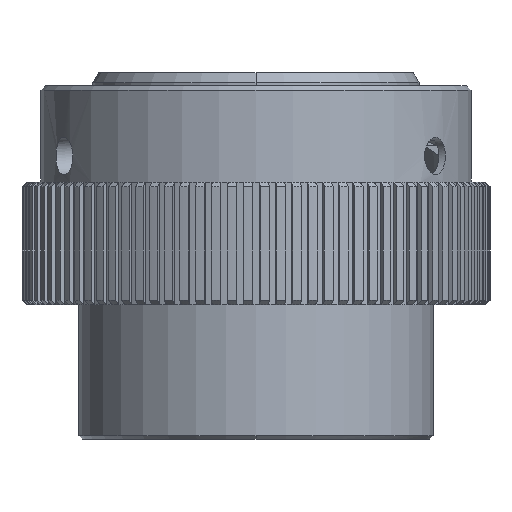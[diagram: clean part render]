
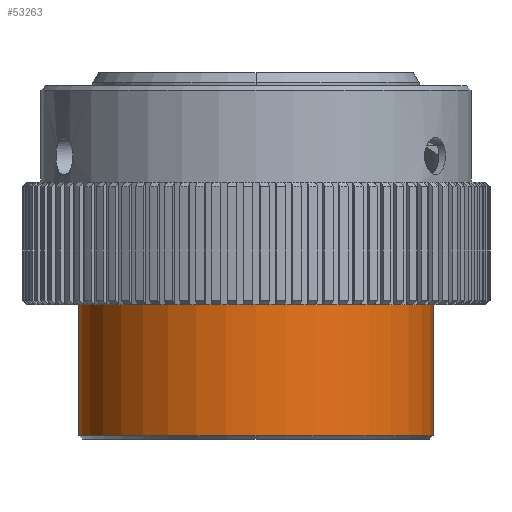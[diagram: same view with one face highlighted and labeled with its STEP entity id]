
A CAD part, front view. The second image highlights one B-rep face of the part: STEP entity #53263.
In plain terms, the highlighted cylindrical face has radius 18.669 mm (diameter 37.338 mm), a partial arc.
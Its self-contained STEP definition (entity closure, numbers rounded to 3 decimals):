
#25269=CARTESIAN_POINT('',(0.,0.,-23.749));
#25270=DIRECTION('',(0.,0.,1.));
#25271=DIRECTION('',(-0.027,1.,0.));
#25272=AXIS2_PLACEMENT_3D('',#25269,#25270,#25271);
#25277=DIRECTION('',(0.,0.,1.));
#25278=VECTOR('',#25277,14.478);
#25279=CARTESIAN_POINT('',(0.508,18.662,-38.227));
#25280=LINE('',#25279,#25278);
#25284=CARTESIAN_POINT('',(0.,0.,-38.227));
#25285=DIRECTION('',(0.,0.,-1.));
#25286=DIRECTION('',(0.027,1.,0.));
#25287=AXIS2_PLACEMENT_3D('',#25284,#25285,#25286);
#25292=CARTESIAN_POINT('',(0.,0.,-38.227));
#25293=DIRECTION('',(0.,0.,1.));
#25294=DIRECTION('',(-0.027,1.,0.));
#25295=AXIS2_PLACEMENT_3D('',#25292,#25293,#25294);
#25300=DIRECTION('',(0.,0.,1.));
#25301=VECTOR('',#25300,14.478);
#25302=CARTESIAN_POINT('',(-0.508,18.662,-38.227));
#25303=LINE('',#25302,#25301);
#25335=CARTESIAN_POINT('',(-0.508,18.662,-38.227));
#25365=CARTESIAN_POINT('',(0.508,18.662,-38.227));
#27697=CARTESIAN_POINT('',(0.,-18.669,-38.227));
#27699=VERTEX_POINT('',#27697);
#27789=CARTESIAN_POINT('',(-0.508,18.662,-23.749));
#27791=VERTEX_POINT('',#27789);
#27792=CARTESIAN_POINT('',(0.508,18.662,-23.749));
#27794=VERTEX_POINT('',#27792);
#27804=VERTEX_POINT('',#25335);
#27808=VERTEX_POINT('',#25365);
#53248=CARTESIAN_POINT('',(0.,0.,-40.538));
#53249=DIRECTION('',(0.,0.,1.));
#53250=DIRECTION('',(0.,1.,0.));
#53251=AXIS2_PLACEMENT_3D('',#53248,#53249,#53250);
#53252=CYLINDRICAL_SURFACE('',#53251,18.669);
#53253=ORIENTED_EDGE('',*,*,#32089,.T.);
#53255=ORIENTED_EDGE('',*,*,#53254,.F.);
#53257=ORIENTED_EDGE('',*,*,#53256,.T.);
#53259=ORIENTED_EDGE('',*,*,#53258,.F.);
#53260=ORIENTED_EDGE('',*,*,#53226,.T.);
#53261=EDGE_LOOP('',(#53253,#53255,#53257,#53259,#53260));
#53262=FACE_OUTER_BOUND('',#53261,.F.);
#53263=ADVANCED_FACE('',(#53262),#53252,.T.);
#25273=CIRCLE('',#25272,18.669);
#25288=CIRCLE('',#25287,18.669);
#25296=CIRCLE('',#25295,18.669);
#32089=EDGE_CURVE('',#27791,#27794,#25273,.T.);
#53226=EDGE_CURVE('',#27804,#27791,#25303,.T.);
#53254=EDGE_CURVE('',#27808,#27794,#25280,.T.);
#53256=EDGE_CURVE('',#27808,#27699,#25288,.T.);
#53258=EDGE_CURVE('',#27804,#27699,#25296,.T.);
